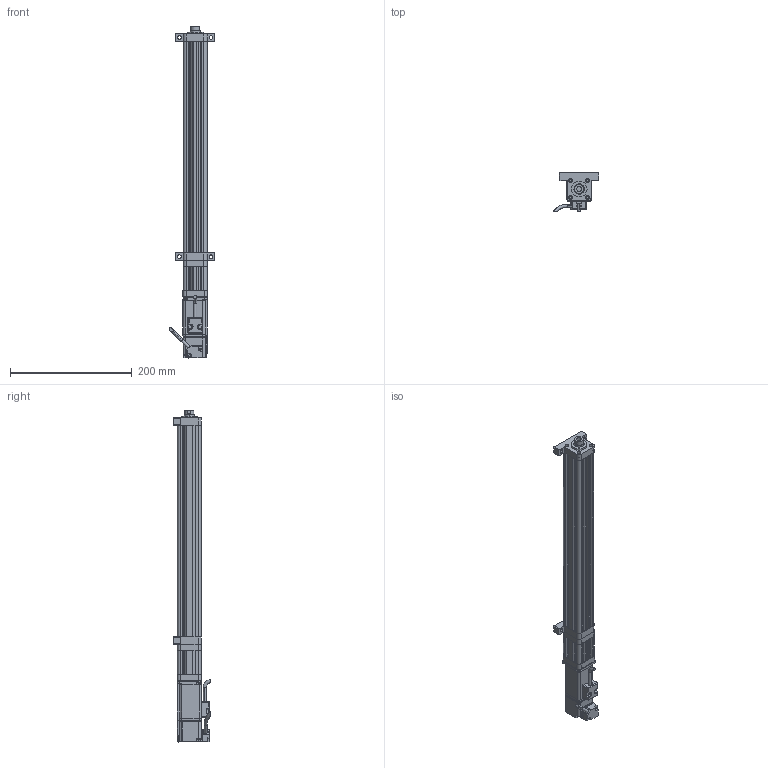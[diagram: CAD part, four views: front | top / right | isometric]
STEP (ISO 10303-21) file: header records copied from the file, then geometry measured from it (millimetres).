
FILE_DESCRIPTION (( 'STEP AP214' ), '1' );
FILE_NAME ('039-S300-D02-A-M2-C2-2.STEP', '2021-03-02T05:35:53', ( '' ), ( '' ), 'SwSTEP 2.0', 'SolidWorks 2018', '' );
FILE_SCHEMA (( 'AUTOMOTIVE_DESIGN' ));
Length unit declared in the file: millimetre
Products named in the file (9): 039-S300-D02-A-M2-C2-2; CMC039-ZLLJB; CMC039-HDB; CMC039-QDB; CMC039-DT; ECMA-CX0401ES-40框號系列機種-100W低慣量系列; CMC039-DJZ; CMC039-AZB; CMC039-GT
Assembly tree (8 placements, depth 2):
  039-S300-D02-A-M2-C2-2
    CMC039-GT
    CMC039-DT
    CMC039-ZLLJB
    CMC039-DJZ
    ECMA-CX0401ES-40框號系列機種-100W低慣量系列
    CMC039-AZB
    CMC039-HDB
    CMC039-QDB
Bounding box: 75.33 x 61.89 x 545.6 mm (x, y, z)
Volume: 556999.2 mm3; surface area: 187852.4 mm2
Topology: 8 solids, 16 shells, 735 faces, 1942 edges, 1223 vertices
Faces by surface type: cylinder 308, plane 306, bspline 84, cone 37
Entity records: 28972 total; most frequent: CARTESIAN_POINT 11393, ORIENTED_EDGE 3818, DIRECTION 3159, EDGE_CURVE 1909, VERTEX_POINT 1223, AXIS2_PLACEMENT_3D 1076, VECTOR 1007, LINE 1007
